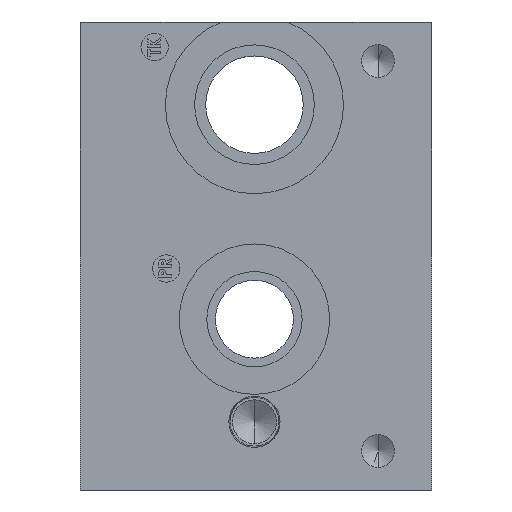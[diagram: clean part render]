
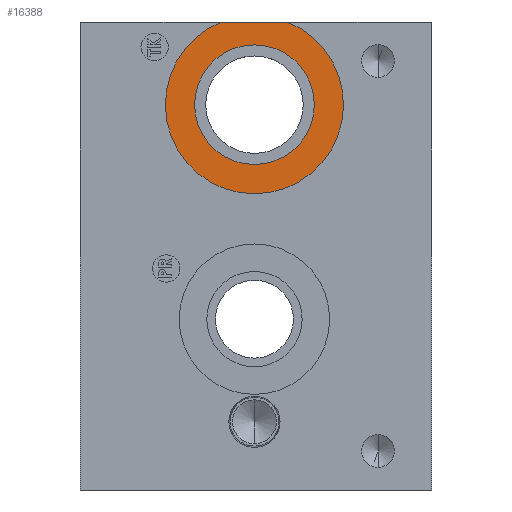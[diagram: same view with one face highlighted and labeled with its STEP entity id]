
A CAD part, left-side view. The second image highlights one B-rep face of the part: STEP entity #16388.
In plain terms, the highlighted planar face has unit normal (-1, 0, 0).
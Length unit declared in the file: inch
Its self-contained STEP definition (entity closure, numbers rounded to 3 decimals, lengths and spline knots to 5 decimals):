
#47 = AXIS2_PLACEMENT_3D ( 'NONE', #8517, #22509, #10624 ) ;
#640 = ORIENTED_EDGE ( 'NONE', *, *, #11871, .F. ) ;
#766 = CARTESIAN_POINT ( 'NONE',  ( 0.031, 1.84574, 0. ) ) ;
#1030 = CARTESIAN_POINT ( 'NONE',  ( 0.031, 0., 0. ) ) ;
#1285 = DIRECTION ( 'NONE',  ( 0., 0., 1. ) ) ;
#1525 = VERTEX_POINT ( 'NONE', #22444 ) ;
#1855 = EDGE_LOOP ( 'NONE', ( #9628, #15706 ) ) ;
#2100 = LINE ( 'NONE', #1030, #12662 ) ;
#3153 = DIRECTION ( 'NONE',  ( 0., -1., 0. ) ) ;
#3401 = FACE_BOUND ( 'NONE', #4208, .T. ) ;
#4208 = EDGE_LOOP ( 'NONE', ( #16002, #640 ) ) ;
#6710 = VERTEX_POINT ( 'NONE', #766 ) ;
#6779 = VERTEX_POINT ( 'NONE', #24116 ) ;
#7587 = CIRCLE ( 'NONE', #47, 0.7674 ) ;
#7624 = CARTESIAN_POINT ( 'NONE',  ( 0.031, 2.27, -1.06 ) ) ;
#8517 = CARTESIAN_POINT ( 'NONE',  ( 0.031, 2.27, -1.06 ) ) ;
#8899 = CARTESIAN_POINT ( 'NONE',  ( 0.031, 2.27, -0.2926 ) ) ;
#9504 = CIRCLE ( 'NONE', #25948, 1.14175 ) ;
#9628 = ORIENTED_EDGE ( 'NONE', *, *, #23671, .T. ) ;
#9747 = DIRECTION ( 'NONE',  ( 0., 0., 1. ) ) ;
#10268 = VERTEX_POINT ( 'NONE', #8899 ) ;
#10624 = DIRECTION ( 'NONE',  ( 0., 0., 1. ) ) ;
#11703 = DIRECTION ( 'NONE',  ( 1., 0., 0. ) ) ;
#11871 = EDGE_CURVE ( 'NONE', #1525, #10268, #7587, .T. ) ;
#12662 = VECTOR ( 'NONE', #3153, 39.37008 ) ;
#12735 = AXIS2_PLACEMENT_3D ( 'NONE', #17664, #11703, #25511 ) ;
#13893 = DIRECTION ( 'NONE',  ( -1., 0., 0. ) ) ;
#14204 = EDGE_CURVE ( 'NONE', #6779, #6710, #2100, .T. ) ;
#15706 = ORIENTED_EDGE ( 'NONE', *, *, #14204, .F. ) ;
#16002 = ORIENTED_EDGE ( 'NONE', *, *, #23667, .F. ) ;
#16388 = ADVANCED_FACE ( 'NONE', ( #3401, #20321 ), #21557, .F. ) ;
#17664 = CARTESIAN_POINT ( 'NONE',  ( 0.031, 2.27, -1.06 ) ) ;
#20321 = FACE_OUTER_BOUND ( 'NONE', #1855, .T. ) ;
#21557 = PLANE ( 'NONE',  #12735 ) ;
#21642 = DIRECTION ( 'NONE',  ( -1., 0., 0. ) ) ;
#22444 = CARTESIAN_POINT ( 'NONE',  ( 0.031, 2.27, -1.8274 ) ) ;
#22509 = DIRECTION ( 'NONE',  ( -1., 0., 0. ) ) ;
#23667 = EDGE_CURVE ( 'NONE', #10268, #1525, #24120, .T. ) ;
#23671 = EDGE_CURVE ( 'NONE', #6779, #6710, #9504, .T. ) ;
#24116 = CARTESIAN_POINT ( 'NONE',  ( 0.031, 2.69426, 0. ) ) ;
#24120 = CIRCLE ( 'NONE', #26075, 0.7674 ) ;
#25511 = DIRECTION ( 'NONE',  ( 0., 0., -1. ) ) ;
#25605 = CARTESIAN_POINT ( 'NONE',  ( 0.031, 2.27, -1.06 ) ) ;
#25948 = AXIS2_PLACEMENT_3D ( 'NONE', #25605, #13893, #1285 ) ;
#26075 = AXIS2_PLACEMENT_3D ( 'NONE', #7624, #21642, #9747 ) ;
